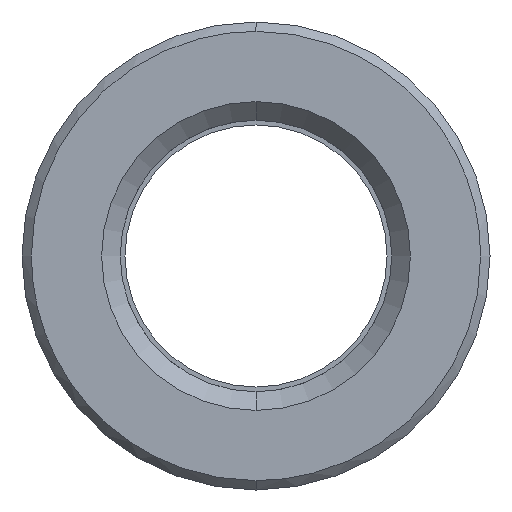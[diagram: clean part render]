
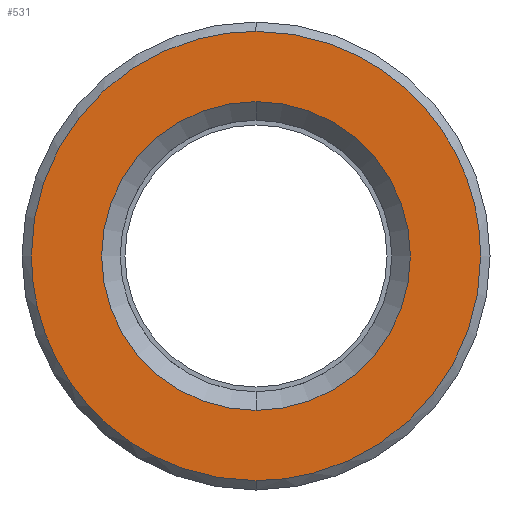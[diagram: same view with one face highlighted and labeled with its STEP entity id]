
A CAD part, left-side view. The second image highlights one B-rep face of the part: STEP entity #531.
In plain terms, the highlighted planar face has unit normal (-1, 0, 0).
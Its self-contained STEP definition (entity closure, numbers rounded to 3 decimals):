
#311=CARTESIAN_POINT('Axis2P3D Location',(0.,0.,0.)) ;
#315=CARTESIAN_POINT('Vertex',(0.,8.25,0.)) ;
#317=CARTESIAN_POINT('Vertex',(0.,0.,8.25)) ;
#320=CARTESIAN_POINT('Axis2P3D Location',(0.,0.,0.)) ;
#324=CARTESIAN_POINT('Vertex',(0.,0.,-8.25)) ;
#351=CARTESIAN_POINT('Axis2P3D Location',(0.,0.,0.)) ;
#355=CARTESIAN_POINT('Vertex',(0.,-8.25,0.)) ;
#358=CARTESIAN_POINT('Axis2P3D Location',(0.,0.,0.)) ;
#438=CARTESIAN_POINT('Axis2P3D Location',(0.,12.,0.)) ;
#444=CARTESIAN_POINT('Control Point',(0.,0.,-12.)) ;
#445=CARTESIAN_POINT('Control Point',(0.,0.982,-12.)) ;
#446=CARTESIAN_POINT('Control Point',(0.,1.964,-11.9)) ;
#447=CARTESIAN_POINT('Control Point',(0.,2.932,-11.699)) ;
#448=CARTESIAN_POINT('Control Point',(0.,5.011,-11.039)) ;
#449=CARTESIAN_POINT('Control Point',(0.,6.895,-9.93)) ;
#450=CARTESIAN_POINT('Control Point',(0.,7.845,-9.197)) ;
#451=CARTESIAN_POINT('Control Point',(0.,9.546,-7.512)) ;
#452=CARTESIAN_POINT('Control Point',(0.,10.784,-5.463)) ;
#453=CARTESIAN_POINT('Control Point',(0.,11.273,-4.367)) ;
#454=CARTESIAN_POINT('Control Point',(0.,11.741,-2.824)) ;
#455=CARTESIAN_POINT('Control Point',(0.,11.947,-1.236)) ;
#456=CARTESIAN_POINT('Control Point',(0.,11.982,-0.824)) ;
#457=CARTESIAN_POINT('Control Point',(0.,12.,-0.412)) ;
#458=CARTESIAN_POINT('Control Point',(0.,12.,0.)) ;
#459=CARTESIAN_POINT('Vertex',(0.,0.,-12.)) ;
#461=CARTESIAN_POINT('Vertex',(0.,12.,0.)) ;
#465=CARTESIAN_POINT('Control Point',(0.,-12.,0.)) ;
#466=CARTESIAN_POINT('Control Point',(0.,-12.,-1.188)) ;
#467=CARTESIAN_POINT('Control Point',(0.,-11.853,-2.376)) ;
#468=CARTESIAN_POINT('Control Point',(0.,-11.559,-3.54)) ;
#469=CARTESIAN_POINT('Control Point',(0.,-10.689,-5.77)) ;
#470=CARTESIAN_POINT('Control Point',(0.,-9.302,-7.721)) ;
#471=CARTESIAN_POINT('Control Point',(0.,-8.49,-8.605)) ;
#472=CARTESIAN_POINT('Control Point',(0.,-6.665,-10.155)) ;
#473=CARTESIAN_POINT('Control Point',(0.,-4.518,-11.213)) ;
#474=CARTESIAN_POINT('Control Point',(0.,-3.384,-11.606)) ;
#475=CARTESIAN_POINT('Control Point',(0.,-2.01,-11.897)) ;
#476=CARTESIAN_POINT('Control Point',(0.,-0.618,-11.987)) ;
#477=CARTESIAN_POINT('Control Point',(0.,-0.412,-11.996)) ;
#478=CARTESIAN_POINT('Control Point',(0.,-0.206,-12.)) ;
#479=CARTESIAN_POINT('Control Point',(0.,0.,-12.)) ;
#480=CARTESIAN_POINT('Vertex',(0.,-12.,0.)) ;
#484=CARTESIAN_POINT('Control Point',(0.,0.,12.)) ;
#485=CARTESIAN_POINT('Control Point',(0.,-0.982,12.)) ;
#486=CARTESIAN_POINT('Control Point',(0.,-1.964,11.9)) ;
#487=CARTESIAN_POINT('Control Point',(0.,-2.932,11.699)) ;
#488=CARTESIAN_POINT('Control Point',(0.,-5.011,11.039)) ;
#489=CARTESIAN_POINT('Control Point',(0.,-6.895,9.93)) ;
#490=CARTESIAN_POINT('Control Point',(0.,-7.845,9.197)) ;
#491=CARTESIAN_POINT('Control Point',(0.,-9.546,7.512)) ;
#492=CARTESIAN_POINT('Control Point',(0.,-10.784,5.463)) ;
#493=CARTESIAN_POINT('Control Point',(0.,-11.273,4.367)) ;
#494=CARTESIAN_POINT('Control Point',(0.,-11.741,2.824)) ;
#495=CARTESIAN_POINT('Control Point',(0.,-11.947,1.236)) ;
#496=CARTESIAN_POINT('Control Point',(0.,-11.982,0.824)) ;
#497=CARTESIAN_POINT('Control Point',(0.,-12.,0.412)) ;
#498=CARTESIAN_POINT('Control Point',(0.,-12.,0.)) ;
#499=CARTESIAN_POINT('Vertex',(0.,0.,12.)) ;
#503=CARTESIAN_POINT('Control Point',(0.,12.,0.)) ;
#504=CARTESIAN_POINT('Control Point',(0.,12.,1.188)) ;
#505=CARTESIAN_POINT('Control Point',(0.,11.853,2.376)) ;
#506=CARTESIAN_POINT('Control Point',(0.,11.559,3.54)) ;
#507=CARTESIAN_POINT('Control Point',(0.,10.689,5.77)) ;
#508=CARTESIAN_POINT('Control Point',(0.,9.302,7.721)) ;
#509=CARTESIAN_POINT('Control Point',(0.,8.49,8.605)) ;
#510=CARTESIAN_POINT('Control Point',(0.,6.665,10.155)) ;
#511=CARTESIAN_POINT('Control Point',(0.,4.518,11.213)) ;
#512=CARTESIAN_POINT('Control Point',(0.,3.384,11.606)) ;
#513=CARTESIAN_POINT('Control Point',(0.,2.01,11.897)) ;
#514=CARTESIAN_POINT('Control Point',(0.,0.618,11.987)) ;
#515=CARTESIAN_POINT('Control Point',(0.,0.412,11.996)) ;
#516=CARTESIAN_POINT('Control Point',(0.,0.206,12.)) ;
#517=CARTESIAN_POINT('Control Point',(0.,0.,12.)) ;
#312=DIRECTION('Axis2P3D Direction',(-1.,0.,0.)) ;
#321=DIRECTION('Axis2P3D Direction',(-1.,0.,0.)) ;
#352=DIRECTION('Axis2P3D Direction',(-1.,0.,0.)) ;
#359=DIRECTION('Axis2P3D Direction',(-1.,0.,0.)) ;
#439=DIRECTION('Axis2P3D Direction',(-1.,0.,0.)) ;
#440=DIRECTION('Axis2P3D XDirection',(0.,0.,1.)) ;
#313=AXIS2_PLACEMENT_3D('Circle Axis2P3D',#311,#312,$) ;
#322=AXIS2_PLACEMENT_3D('Circle Axis2P3D',#320,#321,$) ;
#353=AXIS2_PLACEMENT_3D('Circle Axis2P3D',#351,#352,$) ;
#360=AXIS2_PLACEMENT_3D('Circle Axis2P3D',#358,#359,$) ;
#441=AXIS2_PLACEMENT_3D('Plane Axis2P3D',#438,#439,#440) ;
#520=ORIENTED_EDGE('',*,*,#463,.F.) ;
#521=ORIENTED_EDGE('',*,*,#482,.F.) ;
#522=ORIENTED_EDGE('',*,*,#501,.F.) ;
#523=ORIENTED_EDGE('',*,*,#518,.F.) ;
#526=ORIENTED_EDGE('',*,*,#319,.T.) ;
#527=ORIENTED_EDGE('',*,*,#362,.T.) ;
#528=ORIENTED_EDGE('',*,*,#357,.T.) ;
#529=ORIENTED_EDGE('',*,*,#326,.T.) ;
#530=FACE_BOUND('',#525,.T.) ;
#531=ADVANCED_FACE('553-14X96',(#524,#530),#442,.T.) ;
#443=B_SPLINE_CURVE_WITH_KNOTS('',5,(#444,#445,#446,#447,#448,#449,#450,#451,#452,#453,#454,#455,#456,#457,#458),.UNSPECIFIED.,.F.,.U.,(6,3,3,3,6),(26.657,33.6,42.,50.399,53.312),.UNSPECIFIED.) ;
#464=B_SPLINE_CURVE_WITH_KNOTS('',5,(#465,#466,#467,#468,#469,#470,#471,#472,#473,#474,#475,#476,#477,#478,#479),.UNSPECIFIED.,.F.,.U.,(6,3,3,3,6),(0.,8.4,16.8,25.2,26.657),.UNSPECIFIED.) ;
#483=B_SPLINE_CURVE_WITH_KNOTS('',5,(#484,#485,#486,#487,#488,#489,#490,#491,#492,#493,#494,#495,#496,#497,#498),.UNSPECIFIED.,.F.,.U.,(6,3,3,3,6),(26.657,33.6,42.,50.399,53.312),.UNSPECIFIED.) ;
#502=B_SPLINE_CURVE_WITH_KNOTS('',5,(#503,#504,#505,#506,#507,#508,#509,#510,#511,#512,#513,#514,#515,#516,#517),.UNSPECIFIED.,.F.,.U.,(6,3,3,3,6),(0.,8.4,16.8,25.2,26.657),.UNSPECIFIED.) ;
#314=CIRCLE('generated circle',#313,8.25) ;
#323=CIRCLE('generated circle',#322,8.25) ;
#354=CIRCLE('generated circle',#353,8.25) ;
#361=CIRCLE('generated circle',#360,8.25) ;
#319=EDGE_CURVE('',#316,#318,#314,.F.) ;
#326=EDGE_CURVE('',#325,#316,#323,.F.) ;
#357=EDGE_CURVE('',#356,#325,#354,.F.) ;
#362=EDGE_CURVE('',#318,#356,#361,.F.) ;
#463=EDGE_CURVE('',#460,#462,#443,.T.) ;
#482=EDGE_CURVE('',#481,#460,#464,.T.) ;
#501=EDGE_CURVE('',#500,#481,#483,.T.) ;
#518=EDGE_CURVE('',#462,#500,#502,.T.) ;
#519=EDGE_LOOP('',(#520,#521,#522,#523)) ;
#525=EDGE_LOOP('',(#526,#527,#528,#529)) ;
#524=FACE_OUTER_BOUND('',#519,.T.) ;
#442=PLANE('Plane',#441) ;
#316=VERTEX_POINT('',#315) ;
#318=VERTEX_POINT('',#317) ;
#325=VERTEX_POINT('',#324) ;
#356=VERTEX_POINT('',#355) ;
#460=VERTEX_POINT('',#459) ;
#462=VERTEX_POINT('',#461) ;
#481=VERTEX_POINT('',#480) ;
#500=VERTEX_POINT('',#499) ;
